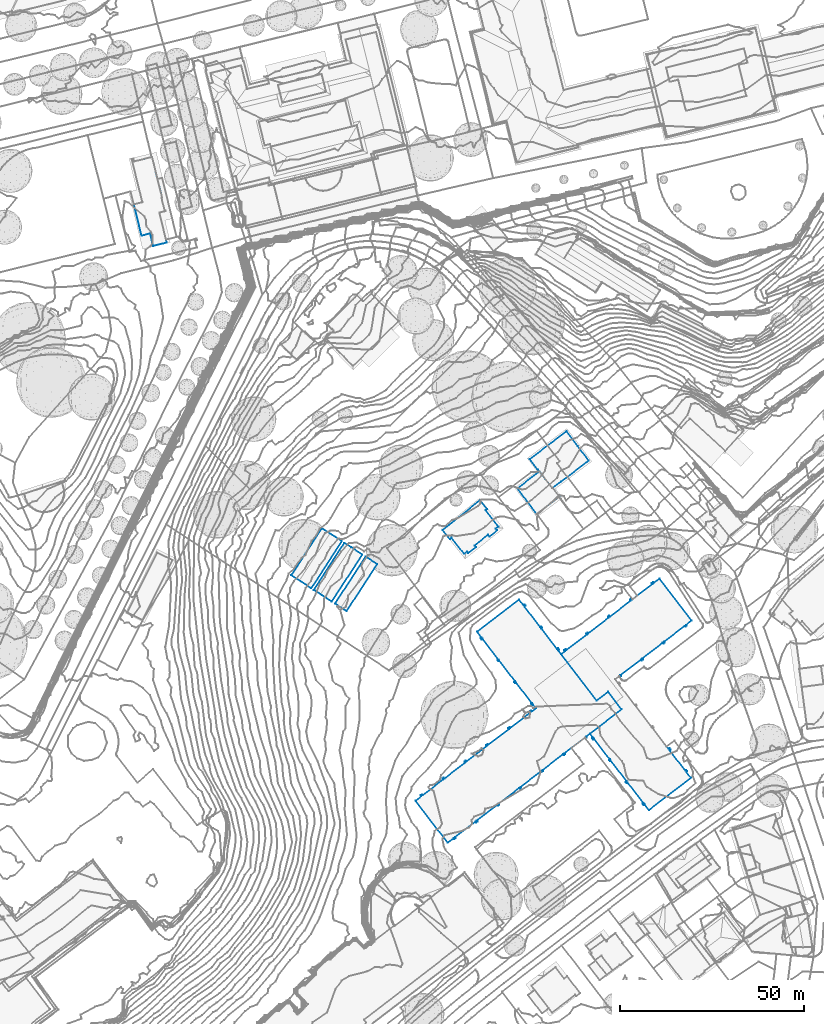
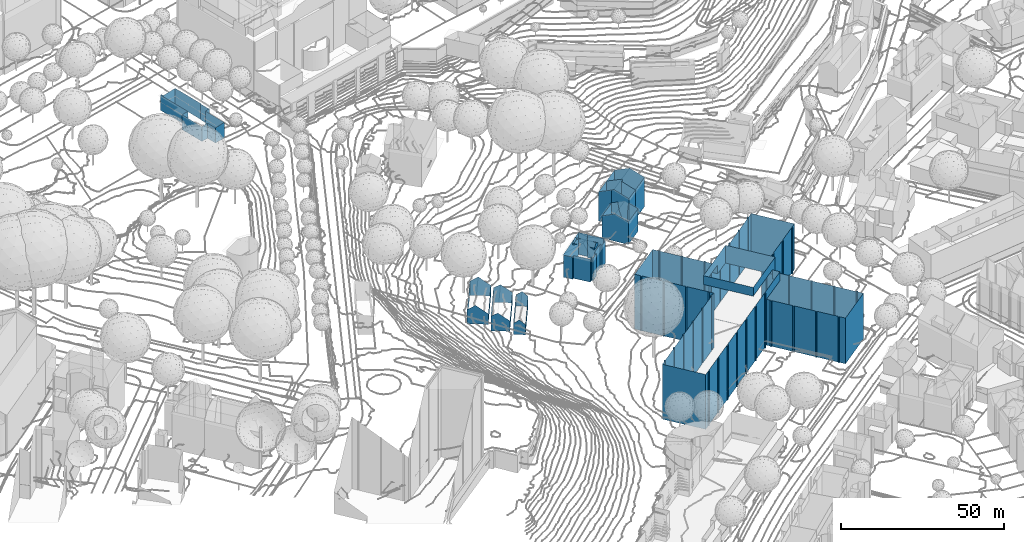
# Not in any storey, part 39 of 494: 9 walls.
"""IFC2X3 model written with IfcOpenShell, lengths in metres."""

from ifc_helpers import new_model, si_unit, frame, origin_with_axes, place, context, subcontext, project, faceted_brep, element, save


model = new_model("IFC2X3")

# Units and contexts
model_context = context("Model", 3, precision=1e-05, world=origin_with_axes())
body_context = subcontext(model_context, "Body", "Model", "MODEL_VIEW")
ifc_project = project(units=[si_unit("AREAUNIT", "SQUARE_METRE"), si_unit("LENGTHUNIT", "METRE")], contexts=[model_context])

# Walls
wall_1_placement = place(None, frame((358.6987320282, 162.4100160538, 500.5526), z_axis=(0.0, 0.0, 1.0), x_axis=(1.0, 0.0, 0.0)))
element("IfcWall", 1, at=wall_1_placement, Name="Wall 0", context=body_context, shape_type="Brep", body=[
    faceted_brep([(39.5829999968, 39.8338999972, 17.1844), (40.6439999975, 40.6503999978, 17.1844), (39.5829999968, 39.8338999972, 0.032), (48.2659999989, 17.2049999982, 17.1843), (47.4529999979, 18.2626999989, 17.1843), (48.2659999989, 17.2049999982, 0.032), (48.0209999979, 17.0155999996, 17.1843), (48.0209999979, 17.0155999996, 0.032), (48.2829999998, 16.6747999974, 17.1843), (48.2829999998, 16.6747999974, 0.032), (48.5279999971, 16.8631999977, 17.1843), (48.5279999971, 16.8631999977, 0.032), (52.8369999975, 11.2588, 17.1843), (52.8369999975, 11.2586999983, 0.032), (52.5920000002, 11.0692999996, 17.1843), (52.5920000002, 11.0692999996, 0.032), (52.8539999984, 10.7294999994, 17.1843), (52.8539999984, 10.7294999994, 0.032), (53.0989999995, 10.9188999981, 17.1843), (53.0989999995, 10.9188999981, 0.032), (57.4089999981, 5.3134000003, 17.1843), (57.4089999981, 5.3134000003, 0.0319), (57.1629999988, 5.125, 17.1843), (57.1629999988, 5.125, 0.0319), (57.4189999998, 4.7919999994, 17.1843), (57.4189999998, 4.7919999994, 0.0319), (57.6649999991, 4.9803999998, 17.1843), (57.6649999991, 4.9803999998, 0.0319), (61.9869999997, -0.639700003, 17.1843), (61.9869999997, -0.639700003, 0.0319), (61.7409999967, -0.8282000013, 17.1843), (61.7409999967, -0.8282000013, 0.0319), (62.0029999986, -1.1689999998, 17.1843), (62.0029999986, -1.1689999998, 0.0319), (62.248999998, -0.9805000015, 17.1843), (62.248999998, -0.9805000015, 0.0319), (63.4439999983, -2.5342000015, 17.1843), (63.4439999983, -2.5342000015, 0.0319), (74.8519999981, 6.2372999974, 17.1843), (74.8519999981, 6.2372999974, 0.0319), (73.6429999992, 7.8094999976, 17.1843), (73.6429999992, 7.8094999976, 0.0319), (73.8889999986, 7.998999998, 17.1843), (73.8889999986, 7.998999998, 0.0319), (73.6149999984, 8.3553999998, 17.1843), (73.6149999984, 8.3553999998, 0.0319), (73.368999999, 8.1669999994, 17.1843), (73.368999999, 8.1669999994, 0.0319), (69.0589999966, 13.7714999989, 17.1843), (69.0589999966, 13.7714999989, 0.0319), (69.3049999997, 13.9608999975, 17.1843), (69.3049999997, 13.9608999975, 0.0319), (69.0489999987, 14.2938999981, 17.1843), (69.0489999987, 14.2938999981, 0.0319), (68.8029999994, 14.1044999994, 17.1843), (68.8029999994, 14.1044999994, 0.0319), (64.4949999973, 19.7088999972, 17.1843), (64.4949999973, 19.7088999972, 0.032), (64.7399999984, 19.8973999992, 17.1843), (64.7399999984, 19.8973999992, 0.032), (64.4780000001, 20.2381999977, 17.1843), (64.4780000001, 20.2381999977, 0.032), (64.2329999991, 20.0497999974, 17.1843), (64.2329999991, 20.0497999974, 0.032), (59.9229999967, 25.6551999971, 17.1843), (59.9229999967, 25.6551999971, 0.032), (60.1689999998, 25.8446999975, 17.1843), (60.1689999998, 25.8446999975, 0.032), (59.9009999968, 26.1932999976, 17.1843), (59.9009999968, 26.1932999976, 0.032), (59.6549999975, 26.0047999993, 17.1843), (59.6549999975, 26.0047999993, 0.032), (55.3579999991, 31.5936999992, 17.1843), (55.3579999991, 31.5936999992, 0.032), (55.6039999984, 31.7831999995, 17.1843), (55.6039999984, 31.7831999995, 0.032), (55.3359999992, 32.1317999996, 17.1843), (55.3359999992, 32.1317999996, 0.032), (55.0899999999, 31.9422999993, 17.1843), (55.0899999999, 31.9422999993, 0.032), (54.2729999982, 33.0047999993, 17.1843), (54.2729999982, 33.0047999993, 0.032), (55.3229999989, 33.8125, 17.1843), (55.3229999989, 33.8125, 0.032), (55.5119999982, 33.566399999, 17.1843), (55.5119999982, 33.566399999, 0.032), (55.8609999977, 33.8348999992, 17.1843), (55.8609999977, 33.8348999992, 0.032), (55.6719999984, 34.0810000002, 17.1843), (55.6719999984, 34.0810000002, 0.032), (61.2839999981, 38.3954999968, 17.1843), (61.2839999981, 38.3954999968, 0.032), (61.4729999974, 38.1493999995, 17.1843), (61.4729999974, 38.1493999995, 0.032), (61.8219999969, 38.4178999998, 17.1843), (61.8219999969, 38.4178999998, 0.032), (61.6329999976, 38.6639999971, 17.1843), (61.6329999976, 38.6639999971, 0.032), (67.2209999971, 42.9618999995, 17.1843), (67.2209999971, 42.9618999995, 0.032), (67.4100000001, 42.7157999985, 17.1843), (67.4100000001, 42.7157999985, 0.032), (67.7509999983, 42.9774999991, 17.1843), (67.7509999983, 42.9774999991, 0.032), (67.561999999, 43.2236000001, 17.1843), (67.561999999, 43.2236000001, 0.032), (73.1659999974, 47.5331999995, 17.1843), (73.1659999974, 47.5331999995, 0.032), (73.3549999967, 47.2870999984, 17.1843), (73.3549999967, 47.2870999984, 0.032), (73.6949999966, 47.5487999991, 17.1843), (73.6949999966, 47.5487999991, 0.032), (73.5059999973, 47.7949000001, 17.1843), (73.5059999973, 47.7949000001, 0.032), (75.0839999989, 49.0077999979, 17.1843), (75.0839999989, 49.0077999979, 0.032), (66.3319999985, 60.4032999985, 17.1844), (66.3319999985, 60.4032999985, 0.032), (64.7649999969, 59.1991999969, 17.1844), (64.7649999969, 59.1991999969, 0.032), (64.5759999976, 59.4442999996, 17.1844), (64.5759999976, 59.4442999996, 0.032), (64.2349999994, 59.182599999, 17.1844), (64.2349999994, 59.182599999, 0.032), (64.4239999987, 58.936499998, 17.1844), (64.4239999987, 58.936499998, 0.032), (58.8279999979, 54.6338, 17.1844), (58.8279999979, 54.6338, 0.032), (58.6389999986, 54.8797999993, 17.1844), (58.6389999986, 54.8797999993, 0.032), (58.2979999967, 54.6180999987, 17.1844), (58.2979999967, 54.6180999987, 0.032), (58.4869999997, 54.3719999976, 17.1844), (58.4869999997, 54.3719999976, 0.032), (52.8829999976, 50.061499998, 17.1844), (52.8829999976, 50.061499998, 0.032), (52.6939999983, 50.307599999, 17.1844), (52.6939999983, 50.307599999, 0.032), (52.3539999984, 50.0458999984, 17.1844), (52.3539999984, 50.0458999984, 0.032), (52.5429999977, 49.7997999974, 17.1844), (52.5429999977, 49.7997999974, 0.032), (46.9299999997, 45.4833999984, 17.1844), (46.9299999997, 45.4833999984, 0.032), (46.7409999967, 45.7294999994, 17.1844), (46.7409999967, 45.7294999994, 0.032), (46.4009999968, 45.4676999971, 17.1844), (46.4009999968, 45.4676999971, 0.032), (46.5899999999, 45.2215999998, 17.1844), (46.5899999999, 45.2215999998, 0.032), (40.9849999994, 40.9129999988, 17.1844), (40.9849999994, 40.9129999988, 0.032), (40.7960000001, 41.1590999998, 17.1844), (40.7960000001, 41.1590999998, 0.032), (40.4549999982, 40.8963999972, 17.1844), (40.4549999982, 40.8963999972, 0.032), (40.6439999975, 40.6503999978, 0.032), (39.0099999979, 41.0887999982, 20.544), (38.7639999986, 40.8993999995, 20.544), (39.0099999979, 41.0887999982, 0.0), (38.7479999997, 41.4296000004, 20.544), (38.7479999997, 41.4296999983, 0.0), (38.5019999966, 41.2412, 20.544), (38.5019999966, 41.2412, 0.0), (34.1879999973, 46.8544999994, 20.544), (34.1879999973, 46.8544999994, 0.0), (34.4339999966, 47.0438999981, 20.544), (34.4339999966, 47.0438999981, 0.0), (34.1719999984, 47.3847000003, 20.544), (34.1719999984, 47.3847000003, 0.0), (33.925999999, 47.1952999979, 20.544), (33.925999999, 47.1952999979, 0.0), (29.623999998, 52.7938999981, 20.5441), (29.623999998, 52.7938999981, 0.0), (29.8699999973, 52.9824000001, 20.5441), (29.8699999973, 52.9824000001, 0.0), (29.6079999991, 53.3241999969, 20.5441), (29.6079999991, 53.3241999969, 0.0), (29.3619999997, 53.1347000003, 20.5441), (29.3619999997, 53.1347000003, 0.0), (28.1559999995, 54.7049999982, 20.5441), (28.1559999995, 54.7049999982, 0.0), (16.754999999, 45.9540999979, 20.5441), (16.754999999, 45.9540999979, 0.0), (17.9679999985, 44.3729999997, 20.5441), (17.9679999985, 44.3729999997, 0.0), (17.7219999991, 44.1835999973, 20.5441), (17.7219999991, 44.1835999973, 0.0), (17.9839999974, 43.8426999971, 20.5441), (17.9839999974, 43.8426999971, 0.0), (18.2299999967, 44.0321999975, 20.5441), (18.2299999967, 44.0321999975, 0.0), (22.5350000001, 38.422799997, 20.544), (22.5350000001, 38.422799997, 0.0), (22.2889999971, 38.2333999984, 20.544), (22.2889999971, 38.2333999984, 0.0), (22.549999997, 37.8924999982, 20.544), (22.549999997, 37.8924999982, 0.0), (22.7960000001, 38.0819999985, 20.544), (22.7960000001, 38.0819999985, 0.0), (27.0999999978, 32.4736000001, 20.544), (27.0999999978, 32.4736000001, 0.0), (26.8539999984, 32.2850999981, 20.544), (26.8539999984, 32.2850999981, 0.0), (27.1159999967, 31.9432999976, 20.544), (27.1159999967, 31.9432999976, 0.0), (27.3619999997, 32.1327999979, 20.544), (27.3619999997, 32.1327999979, 0.0), (31.6600000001, 26.5321999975, 20.544), (31.6600000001, 26.5321999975, 0.0), (31.4139999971, 26.3426999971, 20.544), (31.4139999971, 26.3426999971, 0.0), (31.675999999, 26.0018999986, 20.544), (31.675999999, 26.0018999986, 0.0), (31.9219999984, 26.1903999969, 20.544), (31.9219999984, 26.1903999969, 0.0), (32.737999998, 25.1278999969, 20.544), (32.737999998, 25.1278999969, 0.0), (31.6719999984, 24.3104999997, 20.544), (31.6719999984, 24.3104999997, 0.0), (31.4829999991, 24.556599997, 20.544), (31.4829999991, 24.556599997, 0.0), (31.1419999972, 24.2949000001, 20.544), (31.1419999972, 24.2949000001, 0.0), (31.3310000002, 24.0487999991, 20.544), (31.3310000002, 24.0487999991, 0.0), (25.7309999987, 19.75, 20.544), (25.7309999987, 19.75, 0.0), (25.5419999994, 19.9969999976, 20.544), (25.5419999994, 19.9969999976, 0.0), (25.2009999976, 19.7342999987, 20.544), (25.2009999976, 19.7342999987, 0.0), (25.3899999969, 19.4881999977, 20.544), (25.3899999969, 19.4881999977, 0.0), (19.7899999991, 15.1903999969, 20.544), (19.7899999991, 15.1903999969, 0.0), (19.6009999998, 15.436499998, 20.544), (19.6009999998, 15.436499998, 0.0), (19.2599999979, 15.1747999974, 20.544), (19.2599999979, 15.1747999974, 0.0), (19.4489999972, 14.9287, 20.544), (19.4489999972, 14.9287, 0.0), (13.8259999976, 10.6112999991, 20.544), (13.8259999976, 10.6112999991, 0.0), (13.6369999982, 10.8574000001, 20.544), (13.6369999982, 10.8574000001, 0.0), (13.2949999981, 10.5956999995, 20.544), (13.2949999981, 10.5956999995, 0.0), (13.4839999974, 10.3495999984, 20.544), (13.4839999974, 10.3495999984, 0.0), (7.8769999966, 6.0458999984, 20.544), (7.8769999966, 6.0458999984, 0.0), (7.6879999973, 6.2919999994, 20.544), (7.6879999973, 6.2919999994, 0.0), (7.3469999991, 6.0292999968, 20.544), (7.3469999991, 6.0292999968, 0.0), (7.5359999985, 5.7840999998, 20.544), (7.5359999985, 5.7840999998, 0.0), (1.9269999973, 1.4784999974, 20.544), (1.9269999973, 1.4784999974, 0.0), (1.737999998, 1.7245999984, 20.544), (1.737999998, 1.7245999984, 0.0), (1.3979999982, 1.4637999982, 20.544), (1.3979999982, 1.4637999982, 0.0), (1.5869999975, 1.2176999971, 20.544), (1.5869999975, 1.2176999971, 0.0), (0.0, 0.0, 20.544), (0.0, 0.0, 0.0), (8.7929999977, -11.4101999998, 20.544), (8.7929999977, -11.4101999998, 0.0), (10.3619999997, -10.2061000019, 20.544), (10.3619999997, -10.2061000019, 0.0), (10.550999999, -10.452200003, 20.544), (10.550999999, -10.452200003, 0.0), (10.8919999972, -10.1905000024, 20.544), (10.8919999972, -10.1905000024, 0.0), (10.7029999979, -9.9444000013, 20.544), (10.7029999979, -9.9444000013, 0.0), (16.310999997, -5.6407000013, 20.544), (16.310999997, -5.6407000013, 0.0), (16.5, -5.8868000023, 20.544), (16.5, -5.8868000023, 0.0), (16.8409999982, -5.6240999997, 20.544), (16.8409999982, -5.6240999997, 0.0), (16.6519999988, -5.3780000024, 20.544), (16.6519999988, -5.3780000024, 0.0), (22.2599999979, -1.0743000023, 20.544), (22.2599999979, -1.0743000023, 0.0), (22.4489999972, -1.3203999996, 20.544), (22.4489999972, -1.3203999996, 0.0), (22.7899999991, -1.058600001, 20.544), (22.7899999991, -1.058600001, 0.0), (22.6009999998, -0.8125, 20.544), (22.6009999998, -0.8125, 0.0), (28.2089999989, 3.4921999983, 20.544), (28.2089999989, 3.4921999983, 0.0), (28.3979999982, 3.2460999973, 20.544), (28.3979999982, 3.2460999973, 0.0), (28.7390000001, 3.5077999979, 20.544), (28.7390000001, 3.5077999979, 0.0), (28.549999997, 3.753899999, 20.544), (28.549999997, 3.753899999, 0.0), (34.1499999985, 8.052699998, 20.544), (34.1499999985, 8.052699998, 0.0), (34.3389999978, 7.806599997, 20.544), (34.3389999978, 7.806599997, 0.0), (34.6879999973, 8.0751999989, 20.544), (34.6879999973, 8.0751999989, 0.0), (34.498999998, 8.3202999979, 20.544), (34.498999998, 8.3202999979, 0.0), (40.1629999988, 12.6678999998, 20.544), (40.1629999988, 12.6678999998, 0.0), (40.3519999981, 12.4217999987, 20.544), (40.3519999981, 12.4217999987, 0.0), (40.6219999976, 12.628899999, 20.544), (40.6219999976, 12.628899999, 0.0), (40.4329999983, 12.875, 20.544), (40.4329999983, 12.875, 0.0), (46.0409999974, 17.1787, 20.544), (46.0409999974, 17.1787, 0.0), (46.2299999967, 16.932599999, 20.544), (46.2299999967, 16.932599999, 0.0), (46.5789999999, 17.2010999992, 20.544), (46.5789999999, 17.2010999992, 0.0), (46.3899999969, 17.4463, 20.544), (46.3899999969, 17.4463, 0.0), (52.379999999, 29.6044999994, 0.0318), (56.0319999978, 24.8475999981, 0.032), (52.379999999, 29.6044999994, 0.0), (54.4849999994, 26.8622999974, 20.544), (56.0319999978, 24.8475999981, 20.544), (54.4849999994, 26.8622999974, 17.1843), (49.2740000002, 27.2206999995, 0.032), (49.2740000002, 27.2206999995, 0.0), (42.3459999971, 17.5449000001, 23.8497), (32.2749999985, 30.6639999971, 23.8497), (42.3459999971, 17.5449000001, 20.544), (56.3209999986, 28.2723999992, 23.8497), (56.3209999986, 28.2723999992, 17.1843), (46.2509999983, 41.3915999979, 23.8497), (46.2509999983, 41.3915999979, 17.1844), (41.3039999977, 37.5936999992, 20.544), (32.2749999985, 30.6639999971, 20.544), (41.3039999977, 37.5936999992, 17.1844), (38.7639999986, 40.8993999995, 0.0), (56.0319999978, 24.8475999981, 17.1843), (56.0319999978, 24.8475999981, 0.0), (47.4529999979, 18.2626999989, 0.032)], [[[0, 1, 2]], [[3, 4, 5]], [[6, 3, 7]], [[8, 6, 9]], [[10, 8, 11]], [[12, 10, 13]], [[14, 12, 15]], [[16, 14, 17]], [[18, 16, 19]], [[20, 18, 21]], [[22, 20, 23]], [[24, 22, 25]], [[26, 24, 27]], [[28, 26, 29]], [[30, 28, 31]], [[32, 30, 33]], [[34, 32, 35]], [[36, 34, 37]], [[38, 36, 39]], [[40, 38, 41]], [[42, 40, 43]], [[44, 42, 45]], [[46, 44, 47]], [[48, 46, 49]], [[50, 48, 51]], [[52, 50, 53]], [[54, 52, 55]], [[56, 54, 57]], [[58, 56, 59]], [[60, 58, 61]], [[62, 60, 63]], [[64, 62, 65]], [[66, 64, 67]], [[68, 66, 69]], [[70, 68, 71]], [[72, 70, 73]], [[74, 72, 75]], [[76, 74, 77]], [[78, 76, 79]], [[80, 78, 81]], [[82, 80, 83]], [[84, 82, 85]], [[86, 84, 87]], [[88, 86, 89]], [[90, 88, 91]], [[92, 90, 93]], [[94, 92, 95]], [[96, 94, 97]], [[98, 96, 99]], [[100, 98, 101]], [[102, 100, 103]], [[104, 102, 105]], [[106, 104, 107]], [[108, 106, 109]], [[110, 108, 111]], [[112, 110, 113]], [[114, 112, 115]], [[116, 114, 117]], [[118, 116, 119]], [[120, 118, 121]], [[122, 120, 123]], [[124, 122, 125]], [[126, 124, 127]], [[128, 126, 129]], [[130, 128, 131]], [[132, 130, 133]], [[134, 132, 135]], [[136, 134, 137]], [[138, 136, 139]], [[140, 138, 141]], [[142, 140, 143]], [[144, 142, 145]], [[146, 144, 147]], [[148, 146, 149]], [[150, 148, 151]], [[152, 150, 153]], [[154, 152, 155]], [[1, 154, 156]], [[157, 158, 159]], [[160, 157, 161]], [[162, 160, 163]], [[164, 162, 165]], [[166, 164, 167]], [[168, 166, 169]], [[170, 168, 171]], [[172, 170, 173]], [[174, 172, 175]], [[176, 174, 177]], [[178, 176, 179]], [[180, 178, 181]], [[182, 180, 183]], [[184, 182, 185]], [[186, 184, 187]], [[188, 186, 189]], [[190, 188, 191]], [[192, 190, 193]], [[194, 192, 195]], [[196, 194, 197]], [[198, 196, 199]], [[200, 198, 201]], [[202, 200, 203]], [[204, 202, 205]], [[206, 204, 207]], [[208, 206, 209]], [[210, 208, 211]], [[212, 210, 213]], [[214, 212, 215]], [[216, 214, 217]], [[218, 216, 219]], [[220, 218, 221]], [[222, 220, 223]], [[224, 222, 225]], [[226, 224, 227]], [[228, 226, 229]], [[230, 228, 231]], [[232, 230, 233]], [[234, 232, 235]], [[236, 234, 237]], [[238, 236, 239]], [[240, 238, 241]], [[242, 240, 243]], [[244, 242, 245]], [[246, 244, 247]], [[248, 246, 249]], [[250, 248, 251]], [[252, 250, 253]], [[254, 252, 255]], [[256, 254, 257]], [[258, 256, 259]], [[260, 258, 261]], [[262, 260, 263]], [[264, 262, 265]], [[266, 264, 267]], [[268, 266, 269]], [[270, 268, 271]], [[272, 270, 273]], [[274, 272, 275]], [[276, 274, 277]], [[278, 276, 279]], [[280, 278, 281]], [[282, 280, 283]], [[284, 282, 285]], [[286, 284, 287]], [[288, 286, 289]], [[290, 288, 291]], [[292, 290, 293]], [[294, 292, 295]], [[296, 294, 297]], [[298, 296, 299]], [[300, 298, 301]], [[302, 300, 303]], [[304, 302, 305]], [[306, 304, 307]], [[308, 306, 309]], [[310, 308, 311]], [[312, 310, 313]], [[314, 312, 315]], [[316, 314, 317]], [[318, 316, 319]], [[320, 318, 321]], [[322, 320, 323]], [[324, 322, 325]], [[326, 327, 328]], [[329, 330, 331]], [[332, 326, 333]], [[334, 335, 336]], [[337, 329, 338]], [[329, 337, 334]], [[336, 329, 334]], [[339, 337, 340]], [[335, 341, 342]], [[341, 335, 339]], [[341, 340, 343]], [[340, 341, 339]], [[0, 344, 158]], [[2, 344, 0]], [[0, 158, 343]], [[332, 333, 2]], [[345, 330, 4]], [[325, 4, 324]], [[346, 347, 325]], [[347, 4, 325]], [[1, 156, 2]], [[4, 347, 5]], [[3, 5, 7]], [[6, 7, 9]], [[8, 9, 11]], [[10, 11, 13]], [[12, 13, 15]], [[14, 15, 17]], [[16, 17, 19]], [[18, 19, 21]], [[20, 21, 23]], [[22, 23, 25]], [[24, 25, 27]], [[26, 27, 29]], [[28, 29, 31]], [[30, 31, 33]], [[32, 33, 35]], [[34, 35, 37]], [[36, 37, 39]], [[38, 39, 41]], [[40, 41, 43]], [[42, 43, 45]], [[44, 45, 47]], [[46, 47, 49]], [[48, 49, 51]], [[50, 51, 53]], [[52, 53, 55]], [[54, 55, 57]], [[56, 57, 59]], [[58, 59, 61]], [[60, 61, 63]], [[62, 63, 65]], [[64, 65, 67]], [[66, 67, 69]], [[68, 69, 71]], [[70, 71, 73]], [[72, 73, 75]], [[74, 75, 77]], [[76, 77, 79]], [[78, 79, 81]], [[80, 81, 83]], [[82, 83, 85]], [[84, 85, 87]], [[86, 87, 89]], [[88, 89, 91]], [[90, 91, 93]], [[92, 93, 95]], [[94, 95, 97]], [[96, 97, 99]], [[98, 99, 101]], [[100, 101, 103]], [[102, 103, 105]], [[104, 105, 107]], [[106, 107, 109]], [[108, 109, 111]], [[110, 111, 113]], [[112, 113, 115]], [[114, 115, 117]], [[116, 117, 119]], [[118, 119, 121]], [[120, 121, 123]], [[122, 123, 125]], [[124, 125, 127]], [[126, 127, 129]], [[128, 129, 131]], [[130, 131, 133]], [[132, 133, 135]], [[134, 135, 137]], [[136, 137, 139]], [[138, 139, 141]], [[140, 141, 143]], [[142, 143, 145]], [[144, 145, 147]], [[146, 147, 149]], [[148, 149, 151]], [[150, 151, 153]], [[152, 153, 155]], [[154, 155, 156]], [[158, 344, 159]], [[157, 159, 161]], [[160, 161, 163]], [[162, 163, 165]], [[164, 165, 167]], [[166, 167, 169]], [[168, 169, 171]], [[170, 171, 173]], [[172, 173, 175]], [[174, 175, 177]], [[176, 177, 179]], [[178, 179, 181]], [[180, 181, 183]], [[182, 183, 185]], [[184, 185, 187]], [[186, 187, 189]], [[188, 189, 191]], [[190, 191, 193]], [[192, 193, 195]], [[194, 195, 197]], [[196, 197, 199]], [[198, 199, 201]], [[200, 201, 203]], [[202, 203, 205]], [[204, 205, 207]], [[206, 207, 209]], [[208, 209, 211]], [[210, 211, 213]], [[212, 213, 215]], [[214, 215, 217]], [[216, 217, 219]], [[218, 219, 221]], [[220, 221, 223]], [[222, 223, 225]], [[224, 225, 227]], [[226, 227, 229]], [[228, 229, 231]], [[230, 231, 233]], [[232, 233, 235]], [[234, 235, 237]], [[236, 237, 239]], [[238, 239, 241]], [[240, 241, 243]], [[242, 243, 245]], [[244, 245, 247]], [[246, 247, 249]], [[248, 249, 251]], [[250, 251, 253]], [[252, 253, 255]], [[254, 255, 257]], [[256, 257, 259]], [[258, 259, 261]], [[260, 261, 263]], [[262, 263, 265]], [[264, 265, 267]], [[266, 267, 269]], [[268, 269, 271]], [[270, 271, 273]], [[272, 273, 275]], [[274, 275, 277]], [[276, 277, 279]], [[278, 279, 281]], [[280, 281, 283]], [[282, 283, 285]], [[284, 285, 287]], [[286, 287, 289]], [[288, 289, 291]], [[290, 291, 293]], [[292, 293, 295]], [[294, 295, 297]], [[296, 297, 299]], [[298, 299, 301]], [[300, 301, 303]], [[302, 303, 305]], [[304, 305, 307]], [[306, 307, 309]], [[308, 309, 311]], [[310, 311, 313]], [[312, 313, 315]], [[314, 315, 317]], [[316, 317, 319]], [[318, 319, 321]], [[320, 321, 323]], [[322, 323, 325]], [[327, 346, 328]], [[330, 345, 331]], [[326, 328, 333]], [[335, 342, 336]], [[329, 331, 338]], [[337, 338, 340]], [[158, 341, 343]], [[333, 344, 2]], [[330, 324, 4]], [[327, 347, 346]]]),
])
wall_2_placement = place(None, frame((331.0367320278, 219.7098160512, 508.5819), z_axis=(0.0, 0.0, 1.0), x_axis=(1.0, 0.0, 0.0)))
element("IfcWall", 2, at=wall_2_placement, Name="Wall 0", context=body_context, shape_type="Brep", body=[
    faceted_brep([(0.0, 0.0, 5.4855), (8.3099999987, 12.7871000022, 5.4855), (0.0, 0.0, 0.0), (13.1989999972, 9.6084000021, 3.8936), (4.8889999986, -3.1777999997, 3.8936), (13.1989999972, 9.6084000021, 0.0), (8.3099999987, 12.7871000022, 0.0), (10.1079999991, 11.6181000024, 0.0), (10.1079999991, 11.6181000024, 6.7144), (4.8889999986, -3.1777999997, 0.0), (1.7980000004, -1.1689999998, 0.0), (1.7980000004, -1.1689999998, 6.7144)], [[[0, 1, 2]], [[3, 4, 5]], [[6, 1, 7]], [[7, 1, 8]], [[7, 3, 5]], [[3, 7, 8]], [[9, 4, 10]], [[0, 4, 11]], [[2, 10, 4]], [[2, 4, 0]], [[1, 6, 2]], [[4, 9, 5]]]),
])
wall_3_placement = place(None, frame((336.8067320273, 215.9607160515, 507.462), z_axis=(0.0, 0.0, 1.0), x_axis=(1.0, 0.0, 0.0)))
element("IfcWall", 3, at=wall_3_placement, Name="Wall 0", context=body_context, shape_type="Brep", body=[
    faceted_brep([(0.0, 0.0, 4.0656), (8.3090000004, 12.7862000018, 4.0656), (0.0, 0.0, 0.0), (11.4519999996, 10.7422000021, 3.7817), (3.1429999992, -2.0438999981, 3.7817), (11.4519999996, 10.7422000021, 0.0), (8.3090000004, 12.7862000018, 0.0), (9.8939999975, 11.754900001, 0.0), (9.8939999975, 11.754900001, 5.5585), (3.1429999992, -2.0438999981, 0.0), (1.5850000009, -1.0311999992, 0.0), (1.5850000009, -1.0311999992, 5.5585)], [[[0, 1, 2]], [[3, 4, 5]], [[6, 1, 7]], [[7, 1, 5]], [[1, 3, 5]], [[3, 1, 8]], [[9, 4, 10]], [[0, 4, 11]], [[0, 2, 10]], [[0, 10, 4]], [[1, 6, 2]], [[4, 9, 5]]]),
])
wall_4_placement = place(None, frame((324.9327320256, 223.6766160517, 510.9427), z_axis=(0.0, 0.0, 1.0), x_axis=(1.0, 0.0, 0.0)))
element("IfcWall", 4, at=wall_4_placement, Name="Wall 0", context=body_context, shape_type="Brep", body=[
    faceted_brep([(0.0, 0.0, 5.2575), (8.3100000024, 12.7871000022, 5.2575), (0.0, 0.0, 0.0), (13.7430000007, 9.2558000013, 3.9306), (5.4330000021, -3.5313000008, 3.9306), (13.7430000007, 9.2558000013, 0.0), (8.3100000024, 12.7871000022, 0.0), (10.4539999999, 11.3935000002, 0.0), (10.4539999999, 11.3935000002, 7.0203), (5.4330000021, -3.5313000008, 0.0), (2.1440000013, -1.3925999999, 0.0), (2.1440000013, -1.3925999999, 7.0203)], [[[0, 1, 2]], [[3, 4, 5]], [[6, 1, 7]], [[7, 1, 3]], [[7, 3, 5]], [[3, 1, 8]], [[9, 4, 10]], [[0, 4, 11]], [[0, 2, 10]], [[0, 10, 4]], [[1, 6, 2]], [[4, 9, 5]]]),
])
wall_5_placement = place(None, frame((366.0957320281, 236.0047160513, 506.5151), z_axis=(0.0, 0.0, 1.0), x_axis=(1.0, 0.0, 0.0)))
element("IfcWall", 5, at=wall_5_placement, Name="Wall 0", context=body_context, shape_type="Brep", body=[
    faceted_brep([(10.5029999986, -0.3145000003, 9.8031), (11.4569999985, -1.5126999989, 9.8031), (11.4569999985, -1.5126999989, 9.0021), (15.1469999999, 0.9766000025, 0.0), (13.4049999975, 3.1562000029, 8.5782), (15.1469999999, 0.9766000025, 3.2117), (11.6629999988, 5.3349000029, 0.0), (11.6629999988, 5.3349000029, 8.5812), (12.0999999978, 5.6845999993, 0.0), (12.0999999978, 5.6845999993, 8.2772), (10.1539999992, 8.1191000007, 8.2802), (10.1539999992, 8.1191000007, 6.2104), (10.1539999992, 8.1191000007, 0.0), (10.1539999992, 8.1191000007, 2.0698), (6.9679999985, -6.2665999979, 0.0), (6.9679999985, -6.2665999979, 8.5192), (6.623999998, -5.8378999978, 8.8071), (6.623999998, -5.8378999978, 4.4036), (9.0219999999, -4.625, 0.0), (9.0219999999, -4.625, 8.5222), (8.6779999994, -4.1952999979, 0.0), (8.6779999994, -4.1952999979, 8.8101), (12.3489999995, -1.2597999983, 0.0), (12.3489999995, -1.2597999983, 8.8151), (12.742999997, -1.7520000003, 0.0), (12.742999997, -1.7520000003, 8.4862), (14.8279999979, -0.0849999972, 0.0), (14.4340000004, 0.4072000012, 8.8181), (14.8279999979, -0.0849999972, 8.4892), (14.4340000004, 0.4072000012, 5.5115), (14.4340000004, 0.4072000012, 0.0), (5.8429999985, -6.4618999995, 8.5662), (4.1009999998, -4.2831999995, 8.5632), (5.8429999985, -6.4618999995, 4.8185), (5.8429999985, -6.4618999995, 0.0), (2.3599999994, -2.1034999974, 0.0), (1.9459999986, -2.4345999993, 0.0), (0.0, 0.0, 6.2014), (0.0, 0.0, 2.0648), (1.9459999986, -2.4345999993, 8.2722), (0.0, 0.0, 8.2692), (0.0, 0.0, 0.0), (6.9809999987, 4.1103000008, 9.8031), (7.930999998, 2.9169999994, 9.8031), (6.9809999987, 4.1103000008, 9.0251), (9.0289999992, -3.4452999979, 9.8031), (8.0749999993, -2.2470999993, 9.8031), (9.0289999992, -3.4452999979, 9.0031), (5.5029999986, 0.9844000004, 9.8031), (4.5529999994, 2.1777000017, 9.8031), (4.5529999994, 2.1777000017, 9.0251), (10.305999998, -2.427699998, 9.0031), (10.305999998, -2.427699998, 10.869), (5.8299999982, 3.1953000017, 9.0251), (5.8299999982, 3.1953000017, 10.869), (0.2569999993, 0.2050999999, 8.4482), (0.2569999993, 0.2050999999, 0.0), (9.9329999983, 7.9433000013, 0.0), (9.9329999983, 7.9433000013, 8.4342), (14.7960000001, 0.6963, 0.0), (15.1469999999, 0.9766000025, 8.5752), (14.7960000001, 0.6963, 8.8191), (6.1889999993, -6.1855999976, 8.8061), (6.1889999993, -6.1855999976, 0.0), (6.623999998, -5.8378999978, 0.0), (2.3599999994, -2.1034999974, 8.5602)], [[[0, 1, 2]], [[3, 4, 5]], [[6, 4, 3]], [[7, 8, 9]], [[7, 6, 8]], [[10, 9, 11]], [[12, 13, 9]], [[8, 12, 9]], [[14, 15, 16]], [[17, 14, 16]], [[18, 15, 14]], [[19, 18, 20]], [[21, 22, 23]], [[21, 20, 22]], [[24, 25, 22]], [[23, 22, 25]], [[25, 24, 26]], [[27, 28, 29]], [[28, 26, 30]], [[31, 32, 33]], [[34, 33, 35]], [[32, 35, 33]], [[36, 37, 38]], [[39, 40, 36]], [[41, 36, 38]], [[39, 36, 35]], [[42, 43, 44]], [[45, 46, 47]], [[48, 49, 50]], [[2, 1, 51]], [[51, 1, 52]], [[52, 45, 47]], [[52, 47, 51]], [[50, 49, 53]], [[53, 49, 54]], [[53, 42, 44]], [[42, 53, 54]], [[40, 55, 37]], [[38, 37, 13]], [[56, 38, 57]], [[56, 41, 38]], [[11, 37, 55]], [[58, 10, 11]], [[11, 13, 37]], [[13, 57, 38]], [[12, 57, 13]], [[55, 58, 11]], [[30, 5, 29]], [[59, 3, 5]], [[30, 59, 5]], [[29, 60, 61]], [[29, 61, 27]], [[60, 29, 5]], [[16, 62, 17]], [[63, 64, 17]], [[33, 17, 62]], [[17, 33, 63]], [[63, 33, 34]], [[33, 62, 31]], [[7, 4, 6]], [[60, 5, 4]], [[11, 9, 13]], [[17, 64, 14]], [[18, 19, 15]], [[20, 21, 19]], [[25, 26, 28]], [[28, 30, 29]], [[65, 35, 32]], [[40, 37, 36]], [[35, 65, 39]]]),
])
wall_6_placement = place(None, frame((389.7587320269, 255.2674160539, 507.648), z_axis=(0.0, 0.0, 1.0), x_axis=(1.0, 0.0, 0.0)))
element("IfcWall", 6, at=wall_6_placement, Name="Wall 0", context=body_context, shape_type="Brep", body=[
    faceted_brep([(0.0, 0.0, 0.0), (0.0, 0.0, 10.934), (0.057, 0.0419999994, 10.934), (0.0540000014, 0.0399999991, 0.0), (2.2520000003, -2.9736000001, 0.0), (2.1919999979, -2.8936000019, 12.4298), (2.5890000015, -3.4180000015, 12.7008), (2.5890000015, -3.4180000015, 0.0), (2.6359999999, -3.380900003, 12.7008), (2.6359999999, -3.380900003, 0.0), (2.686999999, -3.3447000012, 0.0), (3.1349999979, -3.9346000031, 0.0), (3.1349999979, -3.9356000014, 13.0067), (2.686999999, -3.3447000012, 12.7008), (4.9050000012, 3.7089999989, 0.0), (4.9050000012, 3.7089999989, 10.93), (7.9470000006, -0.308600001, 13.0067), (8.1559999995, -0.5850000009, 0.0), (2.8830000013, 2.1805999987, 10.932), (6.1270000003, -7.884800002, 0.0), (6.1270000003, -7.884800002, 10.9239), (8.5309999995, -6.0830000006, 0.0), (10.2269999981, -4.8115000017, 10.9179), (8.4750000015, -6.125, 10.9209), (10.2269999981, -4.8115000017, 0.0), (7.436999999, -1.125, 12.8618), (7.436999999, -1.125, 0.0), (8.1559999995, -0.5850000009, 12.8608)], [[[0, 1, 2]], [[2, 3, 0]], [[4, 5, 0]], [[5, 1, 0]], [[6, 5, 7]], [[5, 4, 7]], [[8, 6, 9]], [[6, 7, 9]], [[8, 9, 10]], [[11, 12, 13]], [[10, 11, 13]], [[14, 15, 16]], [[17, 14, 16]], [[18, 3, 2]], [[18, 14, 3]], [[14, 18, 15]], [[12, 19, 20]], [[12, 11, 19]], [[21, 22, 23]], [[22, 21, 24]], [[23, 19, 21]], [[25, 22, 26]], [[27, 26, 17]], [[16, 27, 17]], [[10, 13, 8]], [[20, 19, 23]], [[22, 24, 26]], [[25, 26, 27]]]),
])
wall_7_placement = place(None, frame((394.6637320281, 258.9764160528, 507.648), z_axis=(0.0, 0.0, 1.0), x_axis=(1.0, 0.0, 0.0)))
element("IfcWall", 7, at=wall_7_placement, Name="Wall 0", context=body_context, shape_type="Brep", body=[
    faceted_brep([(2.5700000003, 1.9510999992, 10.926), (0.0, 0.0, 0.0), (0.0, 0.0, 10.93), (1.9109999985, 1.4510999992, 0.0), (5.0969999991, 3.8691000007, 0.0), (3.0419999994, -4.0175999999, 13.0067), (3.2509999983, -4.2939999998, 0.0), (5.0969999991, 3.8691000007, 10.921), (8.1529999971, -0.1640999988, 13.0067), (8.1529999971, -0.1640999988, 0.0), (11.1429999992, -4.1103999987, 0.0), (11.1429999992, -4.1103999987, 10.9249), (8.686999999, -5.9706999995, 3.5816), (5.3219999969, -8.5205000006, 0.0), (6.8779999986, -7.3418000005, 10.9199), (5.3219999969, -8.5205000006, 10.9179), (2.5319999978, -4.8339999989, 12.8618), (3.2509999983, -4.2939999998, 12.8608), (2.5319999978, -4.8339999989, 0.0)], [[[0, 1, 2]], [[0, 3, 1]], [[0, 4, 3]], [[5, 1, 6]], [[2, 1, 5]], [[4, 7, 8]], [[4, 8, 9]], [[10, 11, 12]], [[13, 10, 12]], [[12, 11, 14]], [[15, 13, 12]], [[8, 10, 9]], [[8, 11, 10]], [[16, 17, 18]], [[18, 15, 16]], [[18, 13, 15]], [[7, 4, 0]], [[12, 14, 15]], [[5, 6, 17]], [[17, 6, 18]]]),
])
wall_8_placement = place(None, frame((386.3977320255, 247.3445160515, 507.147), z_axis=(0.0, 0.0, 1.0), x_axis=(1.0, 0.0, 0.0)))
element("IfcWall", 8, at=wall_8_placement, Name="Wall 0", context=body_context, shape_type="Brep", body=[
    faceted_brep([(2.3630000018, -3.1268999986, 0.0), (2.6130000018, -3.4569999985, 10.2291), (1.6540000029, -2.1875, 9.5411), (0.0, 0.0, 0.0), (0.0, 0.0, 8.3542), (6.0480000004, 4.5782000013, 0.0), (6.0480000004, 4.5782000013, 8.3482), (8.6740000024, 1.1132999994, 10.2291), (8.6750000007, 1.1114000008, 0.0), (5.9979999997, 4.5410000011, 0.0), (5.9979999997, 4.5410000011, 8.3482), (5.5989999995, 4.9678000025, 0.0), (5.5989999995, 4.9678000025, 8.0963), (5.6469999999, 5.004900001, 8.0963), (5.6469999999, 5.004900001, 0.0), (5.9510000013, 4.504900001, 0.0), (5.9510000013, 4.504900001, 8.3482), (11.4150000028, -2.2997999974, 8.3992), (9.5879999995, 0.1182000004, 0.0), (9.5879999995, 0.1182000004, 9.6661), (11.4150000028, -2.2997999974, 0.0), (9.4880000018, 0.0381000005, 0.0), (9.4880000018, 0.0381000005, 9.6651), (5.2630000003, -6.9628999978, 0.0), (5.2630000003, -6.9628999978, 8.3902)], [[[0, 1, 2]], [[2, 3, 0]], [[3, 2, 4]], [[5, 6, 7]], [[7, 8, 5]], [[9, 10, 6]], [[9, 6, 5]], [[11, 12, 13]], [[11, 13, 14]], [[15, 4, 16]], [[3, 4, 15]], [[17, 18, 19]], [[17, 20, 18]], [[19, 21, 22]], [[19, 18, 21]], [[22, 8, 7]], [[22, 21, 8]], [[23, 24, 1]], [[24, 20, 17]], [[20, 24, 23]], [[10, 14, 13]], [[10, 9, 14]], [[16, 12, 15]], [[12, 11, 15]], [[23, 1, 0]]]),
])
wall_9_placement = place(None, frame((281.5977320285, 336.7850160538, 537.4764), z_axis=(0.0, 0.0, 1.0), x_axis=(1.0, 0.0, 0.0)))
element("IfcWall", 9, at=wall_9_placement, Name="Wall 0", context=body_context, shape_type="Brep", body=[
    faceted_brep([(0.612999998, -0.6094000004, 5.7084), (5.5299999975, 0.6005999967, 5.9764), (0.612999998, -0.6094000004, 0.0), (5.5299999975, 0.6004999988, 0.0), (0.436999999, 0.1074000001, 0.0), (0.436999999, 0.1074000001, 5.7084), (0.0, 0.0, 0.0), (0.0, 0.0, 5.6844), (2.879999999, -11.7002000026, 5.6874), (2.879999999, -11.7002000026, -0.0001), (0.5489999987, -12.2745000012, -0.0001), (0.5489999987, -12.2744000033, 5.5604), (2.6399999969, -20.7715000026, -0.0001), (4.9839999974, -20.193400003, -0.0001), (4.9839999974, -20.193400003, 5.6904), (2.6399999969, -20.7715000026, 5.5624), (5.799999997, -23.5655000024, -0.0001), (5.799999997, -23.5655000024, 5.6904), (9.5009999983, -22.6465000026, -0.0001), (7.5019999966, -14.5274000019, -0.0001), (7.5019999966, -14.5274000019, 5.8904), (9.5009999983, -22.6465000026, 5.8924), (9.1529999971, -14.121100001, 5.9804), (9.1529999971, -14.121100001, -0.0001), (9.1149999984, -13.9659000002, 5.9804), (9.1149999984, -13.9659000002, -0.0001), (8.9499999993, -14.005900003, 5.9714), (8.9499999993, -14.005900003, -0.0001), (8.0949999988, -10.5293000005, 5.9704), (8.0949999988, -10.5293000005, -0.0001), (8.2589999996, -10.4893000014, -0.0001), (8.2589999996, -10.4893000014, 5.9794)], [[[0, 1, 2]], [[3, 2, 1]], [[4, 5, 2]], [[6, 5, 4]], [[6, 7, 5]], [[8, 6, 9]], [[6, 8, 7]], [[10, 11, 8]], [[8, 9, 10]], [[12, 11, 10]], [[13, 14, 12]], [[12, 14, 15]], [[14, 16, 17]], [[13, 16, 14]], [[18, 17, 16]], [[19, 20, 18]], [[20, 21, 18]], [[22, 20, 23]], [[19, 23, 20]], [[24, 23, 25]], [[26, 25, 27]], [[28, 27, 29]], [[30, 28, 29]], [[3, 1, 30]], [[5, 0, 2]], [[11, 12, 15]], [[17, 18, 21]], [[22, 23, 24]], [[25, 26, 24]], [[26, 27, 28]], [[30, 31, 28]], [[31, 30, 1]]]),
])

save(model, "model.ifc")
